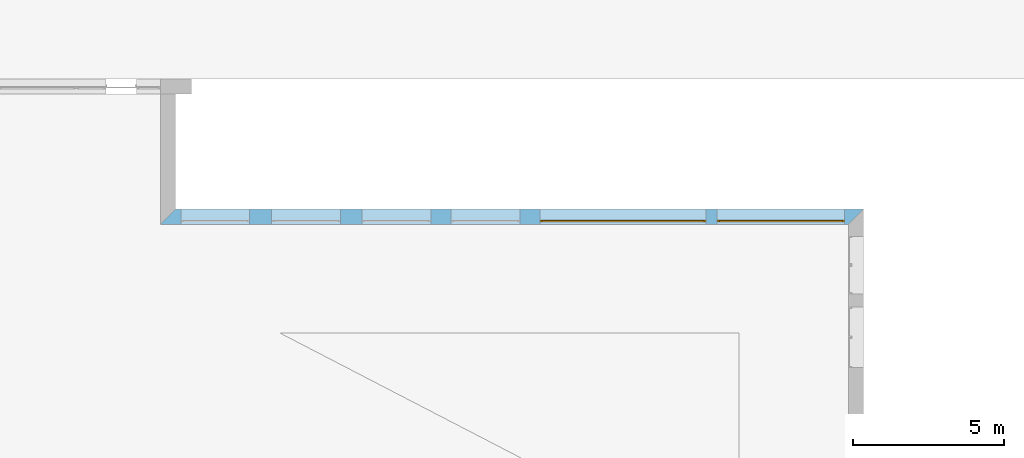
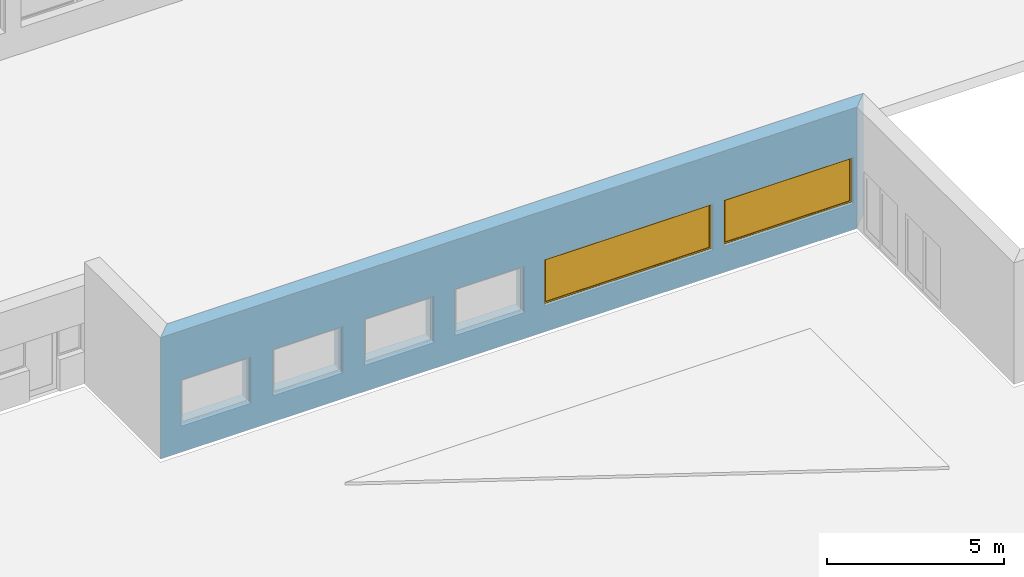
# One storey, part 17 of 36: 2 windows, 6 openings, plus 1 element that does not belong to this part.
"""IFC2X3 building model written with IfcOpenShell, lengths in millimetres."""

from ifc_helpers import new_model, entity, si_unit, converted_unit, money_unit, direction, frame, origin_with_axes, place, context, subcontext, project, spatial, polyline, outline, extrude, open_shell, faceted_brep, surface_model, material, material_list, layer, layer_set, layer_usage, type_object, element, fill, save


model = new_model("IFC2X3")

# Units and contexts
model_context = context("Model", 3, precision=1e-05, world=origin_with_axes(), true_north=direction((0.0, 1.0)))
body_context = subcontext(model_context, "Body", "Model", "MODEL_VIEW")
ifc_project = project(units=[si_unit("LENGTHUNIT", "METRE", prefix="MILLI"), si_unit("AREAUNIT", "SQUARE_METRE"), si_unit("VOLUMEUNIT", "CUBIC_METRE"), converted_unit("PLANEANGLEUNIT", "DEGREE", entity("IfcPlaneAngleMeasure", 0.0174532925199), si_unit("PLANEANGLEUNIT", "RADIAN"), dimensions=[0, 0, 0, 0, 0, 0, 0]), si_unit("SOLIDANGLEUNIT", "STERADIAN"), money_unit("USD"), converted_unit("TIMEUNIT", "Year", entity("IfcTimeMeasure", 31556926.0), si_unit("TIMEUNIT", "SECOND"), dimensions=[0, 0, 0, 0, 0, 0, 0]), si_unit("MASSUNIT", "GRAM"), si_unit("THERMODYNAMICTEMPERATUREUNIT", "DEGREE_CELSIUS"), si_unit("LUMINOUSINTENSITYUNIT", "LUMEN")], contexts=[model_context])

# Site, building, storey
site_placement = place(None, origin_with_axes())
site = spatial("IfcSite", under=ifc_project, at=site_placement, Name="Site", CompositionType="ELEMENT")
building_placement = place(site_placement, origin_with_axes())
building = spatial("IfcBuilding", under=site, at=building_placement, Name="Building", CompositionType="ELEMENT")
storey_placement = place(building_placement, frame((0.0, 0.0, -3400.0), z_axis=(0.0, 0.0, 1.0), x_axis=(1.0, 0.0, 0.0)))
storey = spatial("IfcBuildingStorey", under=building, at=storey_placement, Name="1KORRUS", CompositionType="ELEMENT", Elevation=-3400.0)

# Wall, openings, windows
ifc_material_1 = material(Name="Olemasolevad seinad tellis, uus viimistlus")
ifc_layer = layer(ifc_material_1, 500.0, ventilated="UNKNOWN")
ifc_layer_set = layer_set([ifc_layer], Name="Olemasolevad seinad tellis, uus viimistlus 500")
ifc_layer_usage = layer_usage(ifc_layer_set, "AXIS2", "POSITIVE", -100.0)
wall_type = type_object("IfcWallType", Name="Olemasolevad seinad tellis, uus viimistlus 500", PredefinedType="NOTDEFINED")
wall_placement = place(storey_placement, frame((-48370.2967033, -24345.6041088, 0.0), z_axis=(0.0, 0.0, 1.0), x_axis=(1.0, 0.0, 0.0)))
wall = element("IfcWallStandardCase", 1, at=wall_placement, inside=storey, type_object=wall_type, material=ifc_layer_usage, Name="VS1", ObjectType="VS1", context=body_context, shape_type="SweptSolid", body=[
    extrude(outline(polyline([(-100.0, -100.0), (22659.9427441, -100.0), (23159.9427441, 400.0), (400.0, 400.0), (-100.0, -100.0)])), origin_with_axes(), (0.0, 0.0, 1.0), 4200.0),
])
opening_1_placement = place(wall_placement, frame((1708.45235668, 0.0, 900.0), z_axis=(0.0, 0.0, 1.0), x_axis=(1.0, 0.0, 0.0)))
element("IfcOpeningElement", 2, at=opening_1_placement, cuts=wall, Name="Olemasolevad aknad jäävad", context=body_context, shape_type="SweptSolid", body=[
    extrude(outline(polyline([(1140.651, 1600.0), (-1140.651, 1600.0), (-1140.651, 0.0), (1140.651, 0.0), (1140.651, 1600.0)])), frame((0.0, 0.0, 0.0), z_axis=(0.0, 1.0, 0.0), x_axis=(-1.0, 0.0, 0.0)), (0.0, 0.0, 1.0), 900.0),
    extrude(outline(polyline([(1140.651, 0.0), (-1140.651, 0.0), (-1140.651, -1600.0), (1140.651, -1600.0), (1140.651, 0.0)])), frame((0.0, 0.0, 0.0), z_axis=(0.0, -1.0, 0.0), x_axis=(-1.0, 0.0, 0.0)), (0.0, 0.0, 1.0), 600.0),
])
opening_2_placement = place(wall_placement, frame((4714.99468383, 0.0, 900.0), z_axis=(0.0, 0.0, 1.0), x_axis=(1.0, 0.0, 0.0)))
element("IfcOpeningElement", 3, at=opening_2_placement, cuts=wall, Name="Olemasolevad aknad jäävad", context=body_context, shape_type="SweptSolid", body=[
    extrude(outline(polyline([(1140.651, 1600.0), (-1140.651, 1600.0), (-1140.651, 0.0), (1140.651, 0.0), (1140.651, 1600.0)])), frame((0.0, 0.0, 0.0), z_axis=(0.0, 1.0, 0.0), x_axis=(-1.0, 0.0, 0.0)), (0.0, 0.0, 1.0), 900.0),
    extrude(outline(polyline([(1140.651, 0.0), (-1140.651, 0.0), (-1140.651, -1600.0), (1140.651, -1600.0), (1140.651, 0.0)])), frame((0.0, 0.0, 0.0), z_axis=(0.0, -1.0, 0.0), x_axis=(-1.0, 0.0, 0.0)), (0.0, 0.0, 1.0), 600.0),
])
opening_3_placement = place(wall_placement, frame((7700.65100477, 0.0, 900.0), z_axis=(0.0, 0.0, 1.0), x_axis=(1.0, 0.0, 0.0)))
element("IfcOpeningElement", 4, at=opening_3_placement, cuts=wall, Name="Olemasolevad aknad jäävad", context=body_context, shape_type="SweptSolid", body=[
    extrude(outline(polyline([(1140.651, 1600.0), (-1140.651, 1600.0), (-1140.651, 0.0), (1140.651, 0.0), (1140.651, 1600.0)])), frame((0.0, 0.0, 0.0), z_axis=(0.0, 1.0, 0.0), x_axis=(-1.0, 0.0, 0.0)), (0.0, 0.0, 1.0), 900.0),
    extrude(outline(polyline([(1140.651, 0.0), (-1140.651, 0.0), (-1140.651, -1600.0), (1140.651, -1600.0), (1140.651, 0.0)])), frame((0.0, 0.0, 0.0), z_axis=(0.0, -1.0, 0.0), x_axis=(-1.0, 0.0, 0.0)), (0.0, 0.0, 1.0), 600.0),
])
opening_4_placement = place(wall_placement, frame((10657.6510048, 0.0, 900.0), z_axis=(0.0, 0.0, 1.0), x_axis=(1.0, 0.0, 0.0)))
element("IfcOpeningElement", 5, at=opening_4_placement, cuts=wall, Name="Olemasolevad aknad jäävad", context=body_context, shape_type="SweptSolid", body=[
    extrude(outline(polyline([(1140.651, 1600.0), (-1140.651, 1600.0), (-1140.651, 0.0), (1140.651, 0.0), (1140.651, 1600.0)])), frame((0.0, 0.0, 0.0), z_axis=(0.0, 1.0, 0.0), x_axis=(-1.0, 0.0, 0.0)), (0.0, 0.0, 1.0), 900.0),
    extrude(outline(polyline([(1140.651, 0.0), (-1140.651, 0.0), (-1140.651, -1600.0), (1140.651, -1600.0), (1140.651, 0.0)])), frame((0.0, 0.0, 0.0), z_axis=(0.0, -1.0, 0.0), x_axis=(-1.0, 0.0, 0.0)), (0.0, 0.0, 1.0), 600.0),
])
opening_5_placement = place(wall_placement, frame((15200.75, 0.0, 900.0), z_axis=(0.0, 0.0, 1.0), x_axis=(1.0, 0.0, 0.0)))
opening_5 = element("IfcOpeningElement", 6, at=opening_5_placement, cuts=wall, Name="Olemasolevad aknad jäävad", context=body_context, shape_type="SweptSolid", body=[
    extrude(outline(polyline([(2750.75, 1600.0), (-2750.75, 1600.0), (-2750.75, 0.0), (2750.75, 0.0), (2750.75, 1600.0)])), frame((0.0, 0.0, 0.0), z_axis=(0.0, 1.0, 0.0), x_axis=(-1.0, 0.0, 0.0)), (0.0, 0.0, 1.0), 900.0),
    extrude(outline(polyline([(2750.75, 0.0), (-2750.75, 0.0), (-2750.75, -1600.0), (2750.75, -1600.0), (2750.75, 0.0)])), frame((0.0, 0.0, 0.0), z_axis=(0.0, -1.0, 0.0), x_axis=(-1.0, 0.0, 0.0)), (0.0, 0.0, 1.0), 600.0),
])
opening_6_placement = place(wall_placement, frame((20428.4145939, 0.0, 900.0), z_axis=(0.0, 0.0, 1.0), x_axis=(1.0, 0.0, 0.0)))
opening_6 = element("IfcOpeningElement", 7, at=opening_6_placement, cuts=wall, Name="Olemasolevad aknad jäävad", context=body_context, shape_type="SweptSolid", body=[
    extrude(outline(polyline([(2112.585, 1600.0), (-2112.585, 1600.0), (-2112.585, 0.0), (2112.585, 0.0), (2112.585, 1600.0)])), frame((0.0, 0.0, 0.0), z_axis=(0.0, 1.0, 0.0), x_axis=(-1.0, 0.0, 0.0)), (0.0, 0.0, 1.0), 900.0),
    extrude(outline(polyline([(2112.585, 0.0), (-2112.585, 0.0), (-2112.585, -1600.0), (2112.585, -1600.0), (2112.585, 0.0)])), frame((0.0, 0.0, 0.0), z_axis=(0.0, -1.0, 0.0), x_axis=(-1.0, 0.0, 0.0)), (0.0, 0.0, 1.0), 600.0),
])
ifc_material_2 = material(Name="Background")
ifc_material_list = material_list([ifc_material_2])
window_style = type_object("IfcWindowStyle", Name="Window 19", ConstructionType="NOTDEFINED", OperationType="SINGLE_PANEL", ParameterTakesPrecedence=False, Sizeable=False)
window_1_placement = place(opening_5_placement, frame((2750.74999999, 0.0, 0.0), z_axis=(0.0, 0.0, 1.0), x_axis=(-1.0, 0.0, 0.0)))
window_1 = element("IfcWindow", 8, at=window_1_placement, inside=storey, type_object=window_style, material=ifc_material_list, Name="Olemasolevad aknad jäävad", ObjectType="Olemasolevad aknad jäävad", OverallHeight=1600.0, OverallWidth=5501.5, context=body_context, shape_type="SurfaceModel", body=[
    faceted_brep([(5476.5, 0.0, 1550.0), (5476.5, -25.0, 1550.0), (5451.5, -25.0, 1550.0), (5451.5, -50.0, 1550.0), (5501.5, -50.0, 1550.0), (5501.5, 0.0, 1550.0), (5476.5, 0.0, 50.0), (5476.5, -25.0, 50.0), (5451.5, -25.0, 50.0), (5451.5, -50.0, 50.0), (5501.5, -50.0, 50.0), (5501.5, 0.0, 50.0)], [[[0, 1, 2, 3, 4, 5]], [[1, 0, 6, 7]], [[8, 2, 1, 7]], [[2, 8, 9, 3]], [[4, 3, 9, 10]], [[5, 4, 10, 11]], [[6, 0, 5, 11]], [[7, 6, 11, 10, 9, 8]]]),
    faceted_brep([(50.0, -25.0, 1550.0), (25.0, -25.0, 1550.0), (25.0, 0.0, 1550.0), (0.0, 0.0, 1550.0), (0.0, -50.0, 1550.0), (50.0, -50.0, 1550.0), (50.0, -25.0, 50.0), (25.0, -25.0, 50.0), (25.0, 0.0, 50.0), (0.0, 0.0, 50.0), (0.0, -50.0, 50.0), (50.0, -50.0, 50.0)], [[[0, 1, 2, 3, 4, 5]], [[1, 0, 6, 7]], [[8, 2, 1, 7]], [[2, 8, 9, 3]], [[9, 10, 4, 3]], [[10, 11, 5, 4]], [[6, 0, 5, 11]], [[7, 6, 11, 10, 9, 8]]]),
    faceted_brep([(50.0, -25.0, 50.0), (25.0, -25.0, 50.0), (25.0, 0.0, 50.0), (0.0, 0.0, 50.0), (0.0, -50.0, 50.0), (50.0, -50.0, 50.0), (5451.5, -25.0, 50.0), (5476.5, -25.0, 50.0), (5476.5, -25.0, 25.0), (25.0, -25.0, 25.0), (25.0, 0.0, 25.0), (5476.5, 0.0, 25.0), (5476.5, 0.0, 50.0), (5501.5, 0.0, 50.0), (5501.5, 0.0, 0.0), (0.0, 0.0, 0.0), (0.0, -50.0, 0.0), (5501.5, -50.0, 50.0), (5451.5, -50.0, 50.0), (5501.5, -50.0, 0.0)], [[[0, 1, 2, 3, 4, 5]], [[1, 0, 6, 7, 8, 9]], [[10, 2, 1, 9]], [[11, 12, 13, 14, 15, 3, 2, 10]], [[15, 16, 4, 3]], [[17, 18, 5, 4, 16, 19]], [[6, 0, 5, 18]], [[7, 6, 18, 17, 13, 12]], [[7, 12, 11, 8]], [[11, 10, 9, 8]], [[13, 17, 19, 14]], [[14, 19, 16, 15]]]),
    faceted_brep([(5476.5, 0.0, 1550.0), (5476.5, 0.0, 1575.0), (25.0, 0.0, 1575.0), (25.0, 0.0, 1550.0), (0.0, 0.0, 1550.0), (0.0, 0.0, 1600.0), (5501.5, 0.0, 1600.0), (5501.5, 0.0, 1550.0), (5476.5, -25.0, 1550.0), (5476.5, -25.0, 1575.0), (25.0, -25.0, 1575.0), (25.0, -25.0, 1550.0), (50.0, -25.0, 1550.0), (50.0, -50.0, 1550.0), (0.0, -50.0, 1550.0), (0.0, -50.0, 1600.0), (5501.5, -50.0, 1600.0), (5501.5, -50.0, 1550.0), (5451.5, -50.0, 1550.0), (5451.5, -25.0, 1550.0)], [[[0, 1, 2, 3, 4, 5, 6, 7]], [[1, 0, 8, 9]], [[2, 1, 9, 10]], [[3, 2, 10, 11]], [[11, 12, 13, 14, 4, 3]], [[4, 14, 15, 5]], [[5, 15, 16, 6]], [[6, 16, 17, 7]], [[8, 0, 7, 17, 18, 19]], [[12, 11, 10, 9, 8, 19]], [[12, 19, 18, 13]], [[14, 13, 18, 17, 16, 15]]]),
    faceted_brep([(5426.5, -25.0, 1525.0), (5476.5, -25.0, 1525.0), (5476.5, 25.0, 1525.0), (5426.5, 25.0, 1525.0), (5426.5, -25.0, 75.0), (5476.5, -25.0, 75.0), (5476.5, 25.0, 75.0), (5426.5, 25.0, 75.0)], [[[0, 1, 2, 3]], [[0, 4, 5, 1]], [[1, 5, 6, 2]], [[3, 2, 6, 7]], [[4, 0, 3, 7]], [[5, 4, 7, 6]]]),
    faceted_brep([(75.0, -25.0, 75.0), (25.0, -25.0, 75.0), (25.0, 25.0, 75.0), (75.0, 25.0, 75.0), (75.0, -25.0, 1525.0), (25.0, -25.0, 1525.0), (25.0, 25.0, 1525.0), (75.0, 25.0, 1525.0)], [[[0, 1, 2, 3]], [[0, 4, 5, 1]], [[1, 5, 6, 2]], [[3, 2, 6, 7]], [[4, 0, 3, 7]], [[5, 4, 7, 6]]]),
    faceted_brep([(25.0, -25.0, 25.0), (25.0, -25.0, 75.0), (25.0, 25.0, 75.0), (25.0, 25.0, 25.0), (5476.5, -25.0, 25.0), (5476.5, -25.0, 75.0), (5426.5, -25.0, 75.0), (75.0, -25.0, 75.0), (75.0, 25.0, 75.0), (5426.5, 25.0, 75.0), (5476.5, 25.0, 75.0), (5476.5, 25.0, 25.0)], [[[0, 1, 2, 3]], [[0, 4, 5, 6, 7, 1]], [[1, 7, 8, 2]], [[3, 2, 8, 9, 10, 11]], [[4, 0, 3, 11]], [[5, 4, 11, 10]], [[6, 5, 10, 9]], [[7, 6, 9, 8]]]),
    faceted_brep([(5476.5, -25.0, 1575.0), (5476.5, -25.0, 1525.0), (5476.5, 25.0, 1525.0), (5476.5, 25.0, 1575.0), (25.0, -25.0, 1575.0), (25.0, -25.0, 1525.0), (75.0, -25.0, 1525.0), (5426.5, -25.0, 1525.0), (5426.5, 25.0, 1525.0), (75.0, 25.0, 1525.0), (25.0, 25.0, 1525.0), (25.0, 25.0, 1575.0)], [[[0, 1, 2, 3]], [[0, 4, 5, 6, 7, 1]], [[1, 7, 8, 2]], [[3, 2, 8, 9, 10, 11]], [[4, 0, 3, 11]], [[5, 4, 11, 10]], [[6, 5, 10, 9]], [[7, 6, 9, 8]]]),
    surface_model("IfcShellBasedSurfaceModel", [(5426.5, -10.0, 75.0), (5426.5, -10.0, 1525.0), (75.0, -10.0, 1525.0), (75.0, -10.0, 75.0)], [open_shell([[[0, 1, 2, 3]]])]),
    surface_model("IfcShellBasedSurfaceModel", [(5426.5, 10.0, 75.0), (75.0, 10.0, 75.0), (75.0, 10.0, 1525.0), (5426.5, 10.0, 1525.0)], [open_shell([[[0, 1, 2, 3]]])]),
])
fill(opening_5, window_1)
window_2_placement = place(opening_6_placement, frame((2112.58540612, 0.0, 0.0), z_axis=(0.0, 0.0, 1.0), x_axis=(-1.0, 0.0, 0.0)))
window_2 = element("IfcWindow", 9, at=window_2_placement, inside=storey, type_object=window_style, material=ifc_material_list, Name="Olemasolevad aknad jäävad", ObjectType="Olemasolevad aknad jäävad", OverallHeight=1600.0, OverallWidth=4225.17, context=body_context, shape_type="SurfaceModel", body=[
    faceted_brep([(4200.171, 0.0, 1550.0), (4200.171, -25.0, 1550.0), (4175.171, -25.0, 1550.0), (4175.171, -50.0, 1550.0), (4225.171, -50.0, 1550.0), (4225.171, 0.0, 1550.0), (4200.171, 0.0, 50.0), (4200.171, -25.0, 50.0), (4175.171, -25.0, 50.0), (4175.171, -50.0, 50.0), (4225.171, -50.0, 50.0), (4225.171, 0.0, 50.0)], [[[0, 1, 2, 3, 4, 5]], [[1, 0, 6, 7]], [[8, 2, 1, 7]], [[2, 8, 9, 3]], [[4, 3, 9, 10]], [[5, 4, 10, 11]], [[6, 0, 5, 11]], [[7, 6, 11, 10, 9, 8]]]),
    faceted_brep([(50.0, -25.0, 1550.0), (25.0, -25.0, 1550.0), (25.0, 0.0, 1550.0), (0.0, 0.0, 1550.0), (0.0, -50.0, 1550.0), (50.0, -50.0, 1550.0), (50.0, -25.0, 50.0), (25.0, -25.0, 50.0), (25.0, 0.0, 50.0), (0.0, 0.0, 50.0), (0.0, -50.0, 50.0), (50.0, -50.0, 50.0)], [[[0, 1, 2, 3, 4, 5]], [[1, 0, 6, 7]], [[8, 2, 1, 7]], [[2, 8, 9, 3]], [[9, 10, 4, 3]], [[10, 11, 5, 4]], [[6, 0, 5, 11]], [[7, 6, 11, 10, 9, 8]]]),
    faceted_brep([(50.0, -25.0, 50.0), (25.0, -25.0, 50.0), (25.0, 0.0, 50.0), (0.0, 0.0, 50.0), (0.0, -50.0, 50.0), (50.0, -50.0, 50.0), (4175.171, -25.0, 50.0), (4200.171, -25.0, 50.0), (4200.171, -25.0, 25.0), (25.0, -25.0, 25.0), (25.0, 0.0, 25.0), (4200.171, 0.0, 25.0), (4200.171, 0.0, 50.0), (4225.171, 0.0, 50.0), (4225.171, 0.0, 0.0), (0.0, 0.0, 0.0), (0.0, -50.0, 0.0), (4225.171, -50.0, 50.0), (4175.171, -50.0, 50.0), (4225.171, -50.0, 0.0)], [[[0, 1, 2, 3, 4, 5]], [[1, 0, 6, 7, 8, 9]], [[10, 2, 1, 9]], [[11, 12, 13, 14, 15, 3, 2, 10]], [[15, 16, 4, 3]], [[17, 18, 5, 4, 16, 19]], [[6, 0, 5, 18]], [[7, 6, 18, 17, 13, 12]], [[7, 12, 11, 8]], [[11, 10, 9, 8]], [[13, 17, 19, 14]], [[14, 19, 16, 15]]]),
    faceted_brep([(4200.171, 0.0, 1550.0), (4200.171, 0.0, 1575.0), (25.0, 0.0, 1575.0), (25.0, 0.0, 1550.0), (0.0, 0.0, 1550.0), (0.0, 0.0, 1600.0), (4225.171, 0.0, 1600.0), (4225.171, 0.0, 1550.0), (4200.171, -25.0, 1550.0), (4200.171, -25.0, 1575.0), (25.0, -25.0, 1575.0), (25.0, -25.0, 1550.0), (50.0, -25.0, 1550.0), (50.0, -50.0, 1550.0), (0.0, -50.0, 1550.0), (0.0, -50.0, 1600.0), (4225.171, -50.0, 1600.0), (4225.171, -50.0, 1550.0), (4175.171, -50.0, 1550.0), (4175.171, -25.0, 1550.0)], [[[0, 1, 2, 3, 4, 5, 6, 7]], [[1, 0, 8, 9]], [[2, 1, 9, 10]], [[3, 2, 10, 11]], [[11, 12, 13, 14, 4, 3]], [[4, 14, 15, 5]], [[5, 15, 16, 6]], [[6, 16, 17, 7]], [[8, 0, 7, 17, 18, 19]], [[12, 11, 10, 9, 8, 19]], [[12, 19, 18, 13]], [[14, 13, 18, 17, 16, 15]]]),
    faceted_brep([(4150.171, -25.0, 1525.0), (4200.171, -25.0, 1525.0), (4200.171, 25.0, 1525.0), (4150.171, 25.0, 1525.0), (4150.171, -25.0, 75.0), (4200.171, -25.0, 75.0), (4200.171, 25.0, 75.0), (4150.171, 25.0, 75.0)], [[[0, 1, 2, 3]], [[0, 4, 5, 1]], [[1, 5, 6, 2]], [[3, 2, 6, 7]], [[4, 0, 3, 7]], [[5, 4, 7, 6]]]),
    faceted_brep([(75.0, -25.0, 75.0), (25.0, -25.0, 75.0), (25.0, 25.0, 75.0), (75.0, 25.0, 75.0), (75.0, -25.0, 1525.0), (25.0, -25.0, 1525.0), (25.0, 25.0, 1525.0), (75.0, 25.0, 1525.0)], [[[0, 1, 2, 3]], [[0, 4, 5, 1]], [[1, 5, 6, 2]], [[3, 2, 6, 7]], [[4, 0, 3, 7]], [[5, 4, 7, 6]]]),
    faceted_brep([(25.0, -25.0, 25.0), (25.0, -25.0, 75.0), (25.0, 25.0, 75.0), (25.0, 25.0, 25.0), (4200.171, -25.0, 25.0), (4200.171, -25.0, 75.0), (4150.171, -25.0, 75.0), (75.0, -25.0, 75.0), (75.0, 25.0, 75.0), (4150.171, 25.0, 75.0), (4200.171, 25.0, 75.0), (4200.171, 25.0, 25.0)], [[[0, 1, 2, 3]], [[0, 4, 5, 6, 7, 1]], [[1, 7, 8, 2]], [[3, 2, 8, 9, 10, 11]], [[4, 0, 3, 11]], [[5, 4, 11, 10]], [[6, 5, 10, 9]], [[7, 6, 9, 8]]]),
    faceted_brep([(4200.171, -25.0, 1575.0), (4200.171, -25.0, 1525.0), (4200.171, 25.0, 1525.0), (4200.171, 25.0, 1575.0), (25.0, -25.0, 1575.0), (25.0, -25.0, 1525.0), (75.0, -25.0, 1525.0), (4150.171, -25.0, 1525.0), (4150.171, 25.0, 1525.0), (75.0, 25.0, 1525.0), (25.0, 25.0, 1525.0), (25.0, 25.0, 1575.0)], [[[0, 1, 2, 3]], [[0, 4, 5, 6, 7, 1]], [[1, 7, 8, 2]], [[3, 2, 8, 9, 10, 11]], [[4, 0, 3, 11]], [[5, 4, 11, 10]], [[6, 5, 10, 9]], [[7, 6, 9, 8]]]),
    surface_model("IfcShellBasedSurfaceModel", [(4150.171, -10.0, 75.0), (4150.171, -10.0, 1525.0), (75.0, -10.0, 1525.0), (75.0, -10.0, 75.0)], [open_shell([[[0, 1, 2, 3]]])]),
    surface_model("IfcShellBasedSurfaceModel", [(4150.171, 10.0, 75.0), (75.0, 10.0, 75.0), (75.0, 10.0, 1525.0), (4150.171, 10.0, 1525.0)], [open_shell([[[0, 1, 2, 3]]])]),
])
fill(opening_6, window_2)

save(model, "model.ifc")
